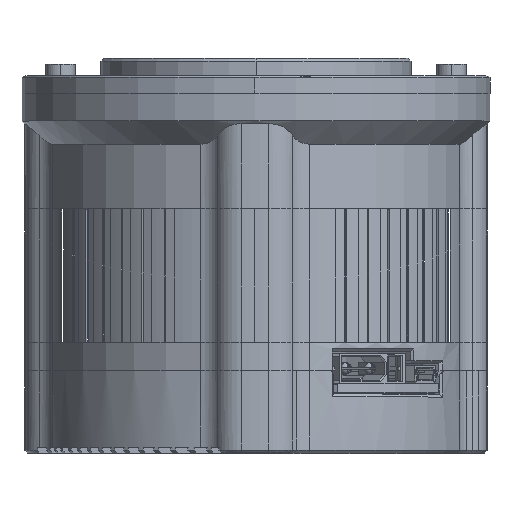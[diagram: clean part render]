
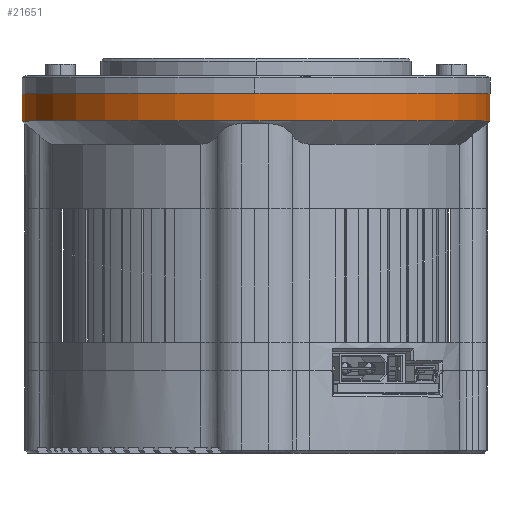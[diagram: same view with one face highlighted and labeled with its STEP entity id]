
A CAD part, top view. The second image highlights one B-rep face of the part: STEP entity #21651.
In plain terms, the highlighted cylindrical face has radius 40 mm (diameter 80 mm), a partial arc.
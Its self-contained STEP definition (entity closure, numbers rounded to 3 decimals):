
#307 = EDGE_CURVE ( 'NONE', #20301, #15734, #25861, .T. ) ;
#705 = CARTESIAN_POINT ( 'NONE',  ( -39.853, 16.4, -0.161 ) ) ;
#2103 = FACE_OUTER_BOUND ( 'NONE', #17658, .T. ) ;
#5852 = CIRCLE ( 'NONE', #29038, 40. ) ;
#6011 = CARTESIAN_POINT ( 'NONE',  ( 40.146, 16.4, 0.204 ) ) ;
#7769 = VERTEX_POINT ( 'NONE', #705 ) ;
#8412 = DIRECTION ( 'NONE',  ( 0., -1., 0. ) ) ;
#8582 = CARTESIAN_POINT ( 'NONE',  ( -39.853, 16.4, -0.161 ) ) ;
#8982 = DIRECTION ( 'NONE',  ( 0., 1., 0. ) ) ;
#8993 = CARTESIAN_POINT ( 'NONE',  ( -39.853, 11.7, -0.161 ) ) ;
#10254 = CARTESIAN_POINT ( 'NONE',  ( 40.146, 11.7, 0.204 ) ) ;
#10714 = DIRECTION ( 'NONE',  ( 1., 0., 0.005 ) ) ;
#11253 = ORIENTED_EDGE ( 'NONE', *, *, #14594, .T. ) ;
#12779 = AXIS2_PLACEMENT_3D ( 'NONE', #13750, #31830, #10714 ) ;
#13750 = CARTESIAN_POINT ( 'NONE',  ( 0.147, 11.7, 0.021 ) ) ;
#14594 = EDGE_CURVE ( 'NONE', #26375, #15734, #18186, .T. ) ;
#15088 = EDGE_CURVE ( 'NONE', #7769, #20301, #5852, .T. ) ;
#15734 = VERTEX_POINT ( 'NONE', #10254 ) ;
#16095 = VECTOR ( 'NONE', #33302, 1000. ) ;
#16780 = DIRECTION ( 'NONE',  ( 0., -1., 0. ) ) ;
#16947 = CARTESIAN_POINT ( 'NONE',  ( 0.147, 16.4, 0.021 ) ) ;
#17658 = EDGE_LOOP ( 'NONE', ( #20033, #22251, #11253, #21351 ) ) ;
#18186 = CIRCLE ( 'NONE', #12779, 40. ) ;
#19654 = CYLINDRICAL_SURFACE ( 'NONE', #29422, 40. ) ;
#19989 = DIRECTION ( 'NONE',  ( 1., 0., 0.005 ) ) ;
#20033 = ORIENTED_EDGE ( 'NONE', *, *, #15088, .F. ) ;
#20301 = VERTEX_POINT ( 'NONE', #6011 ) ;
#21057 = VECTOR ( 'NONE', #8412, 1000. ) ;
#21351 = ORIENTED_EDGE ( 'NONE', *, *, #307, .F. ) ;
#21651 = ADVANCED_FACE ( 'NONE', ( #2103 ), #19654, .T. ) ;
#22251 = ORIENTED_EDGE ( 'NONE', *, *, #30403, .T. ) ;
#24849 = CARTESIAN_POINT ( 'NONE',  ( 0.147, 16.4, 0.021 ) ) ;
#25861 = LINE ( 'NONE', #28240, #16095 ) ;
#26375 = VERTEX_POINT ( 'NONE', #8993 ) ;
#27209 = DIRECTION ( 'NONE',  ( -1., 0., -0.005 ) ) ;
#28240 = CARTESIAN_POINT ( 'NONE',  ( 40.146, 16.4, 0.204 ) ) ;
#29038 = AXIS2_PLACEMENT_3D ( 'NONE', #24849, #8982, #27209 ) ;
#29422 = AXIS2_PLACEMENT_3D ( 'NONE', #16947, #16780, #19989 ) ;
#29516 = LINE ( 'NONE', #8582, #21057 ) ;
#30403 = EDGE_CURVE ( 'NONE', #7769, #26375, #29516, .T. ) ;
#31830 = DIRECTION ( 'NONE',  ( 0., 1., 0. ) ) ;
#33302 = DIRECTION ( 'NONE',  ( 0., -1., 0. ) ) ;
